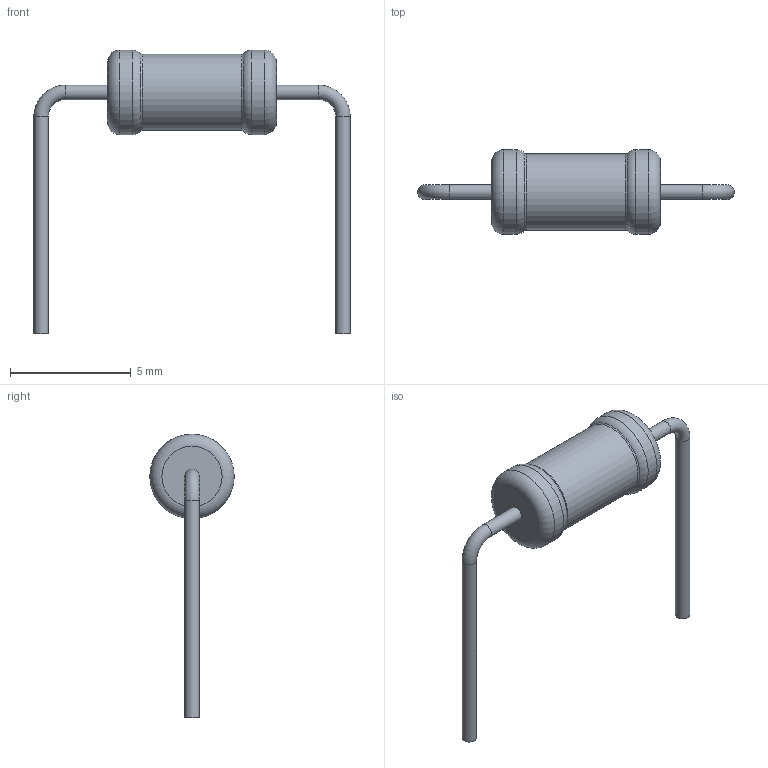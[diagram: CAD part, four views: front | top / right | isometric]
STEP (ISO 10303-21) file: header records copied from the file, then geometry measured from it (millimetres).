
FILE_DESCRIPTION(('STEP AP203'), '1');
FILE_NAME('Ñ2-29Ì-0,25', '', ('UNSPECIFIED'), ('UNSPECIFIED'), 'ASCON STEP Converter 1.6', 'ASCON Math Kernel', '');
FILE_SCHEMA(('CONFIG_CONTROL_DESIGN'));
Length unit declared in the file: millimetre
Bounding box: 13.1 x 3.5 x 11.75 mm (x, y, z)
Volume: 65.1 mm3; surface area: 133.8 mm2
Topology: 1 solids, 1 shells, 19 faces, 33 edges, 18 vertices
Faces by surface type: torus 8, cylinder 7, plane 4
Full cylindrical faces by diameter (mm): 0.6 x4, 3.149 x1, 3.5 x2
Entity records: 570 total; most frequent: DIRECTION 76, CARTESIAN_POINT 56, AXIS2_PLACEMENT_3D 38, EDGE_LOOP 36, ORIENTED_EDGE 36, FACE_OUTER_BOUND 30, COLOUR_RGB 20, FILL_AREA_STYLE_COLOUR 20
